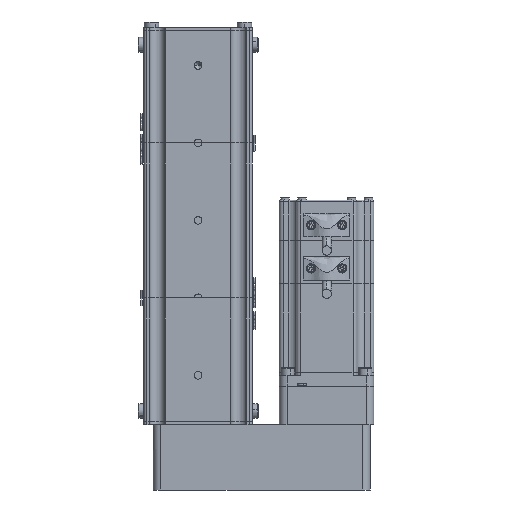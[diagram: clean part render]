
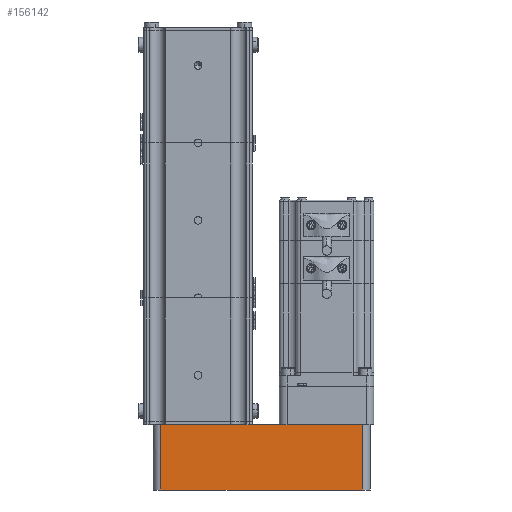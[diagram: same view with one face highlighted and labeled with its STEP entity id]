
A CAD part, front view. The second image highlights one B-rep face of the part: STEP entity #156142.
In plain terms, the highlighted planar face has unit normal (0, -1, 0).
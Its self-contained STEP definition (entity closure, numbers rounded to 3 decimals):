
#43898 = CARTESIAN_POINT ( 'NONE',  ( -21.92, -28.5, 3. ) ) ;
#43980 = CARTESIAN_POINT ( 'NONE',  ( -30.58, -28.5, 3. ) ) ;
#45271 = DIRECTION ( 'NONE',  ( 1., 0., 0. ) ) ;
#45273 = VECTOR ( 'NONE', #45271, 1000. ) ;
#45300 = LINE ( 'NONE', #45309, #45273 ) ;
#45309 = CARTESIAN_POINT ( 'NONE',  ( -111., -28.5, 3. ) ) ;
#45412 = CARTESIAN_POINT ( 'NONE',  ( 21.92, -28.5, 3. ) ) ;
#77147 = VECTOR ( 'NONE', #77173, 1000. ) ;
#77173 = DIRECTION ( 'NONE',  ( 1., 0., 0. ) ) ;
#77175 = CARTESIAN_POINT ( 'NONE',  ( -111., -28.5, 3. ) ) ;
#77177 = LINE ( 'NONE', #77175, #77147 ) ;
#77199 = CARTESIAN_POINT ( 'NONE',  ( -106., -28.5, 3. ) ) ;
#77877 = CARTESIAN_POINT ( 'NONE',  ( -111., -28.5, 3. ) ) ;
#77890 = CARTESIAN_POINT ( 'NONE',  ( 24., -28.5, 3. ) ) ;
#78099 = DIRECTION ( 'NONE',  ( 1., 0., 0. ) ) ;
#78103 = VECTOR ( 'NONE', #78099, 1000. ) ;
#78123 = LINE ( 'NONE', #77877, #78103 ) ;
#78157 = DIRECTION ( 'NONE',  ( 1., 0., 0. ) ) ;
#78158 = VECTOR ( 'NONE', #78157, 1000. ) ;
#78159 = CARTESIAN_POINT ( 'NONE',  ( -111., -28.5, 3. ) ) ;
#78162 = LINE ( 'NONE', #78159, #78158 ) ;
#78174 = DIRECTION ( 'NONE',  ( 0., 0., -1. ) ) ;
#78176 = VECTOR ( 'NONE', #78174, 1000. ) ;
#78179 = CARTESIAN_POINT ( 'NONE',  ( -106., -28.5, 45. ) ) ;
#78182 = LINE ( 'NONE', #78179, #78176 ) ;
#78196 = DIRECTION ( 'NONE',  ( 1., 0., 0. ) ) ;
#78197 = VECTOR ( 'NONE', #78196, 1000. ) ;
#78212 = CARTESIAN_POINT ( 'NONE',  ( -111., -28.5, 45. ) ) ;
#78216 = LINE ( 'NONE', #78212, #78197 ) ;
#79221 = CARTESIAN_POINT ( 'NONE',  ( -35., -28.5, 3. ) ) ;
#79342 = DIRECTION ( 'NONE',  ( 1., 0., 0. ) ) ;
#79364 = CARTESIAN_POINT ( 'NONE',  ( -111., -28.5, 3. ) ) ;
#79367 = LINE ( 'NONE', #79364, #79374 ) ;
#79374 = VECTOR ( 'NONE', #79342, 1000. ) ;
#79943 = PLANE ( 'NONE',  #80127 ) ;
#79944 = FACE_OUTER_BOUND ( 'NONE', #156212, .T. ) ;
#80103 = DIRECTION ( 'NONE',  ( 0., 0., 1. ) ) ;
#80106 = VECTOR ( 'NONE', #80103, 1000. ) ;
#80108 = CARTESIAN_POINT ( 'NONE',  ( 24., -28.5, 45. ) ) ;
#80121 = DIRECTION ( 'NONE',  ( -1., 0., 0. ) ) ;
#80122 = DIRECTION ( 'NONE',  ( 0., 1., 0. ) ) ;
#80125 = CARTESIAN_POINT ( 'NONE',  ( -111., -28.5, 45. ) ) ;
#80127 = AXIS2_PLACEMENT_3D ( 'NONE', #80125, #80122, #80121 ) ;
#80128 = LINE ( 'NONE', #80108, #80106 ) ;
#80147 = CARTESIAN_POINT ( 'NONE',  ( -106., -28.5, 45. ) ) ;
#80162 = CARTESIAN_POINT ( 'NONE',  ( 24., -28.5, 45. ) ) ;
#153975 = VERTEX_POINT ( 'NONE', #79221 ) ;
#153991 = EDGE_CURVE ( 'NONE', #154228, #154508, #79367, .T. ) ;
#154228 = VERTEX_POINT ( 'NONE', #43898 ) ;
#154242 = VERTEX_POINT ( 'NONE', #43980 ) ;
#154471 = EDGE_CURVE ( 'NONE', #153975, #154242, #45300, .T. ) ;
#154508 = VERTEX_POINT ( 'NONE', #45412 ) ;
#155805 = ORIENTED_EDGE ( 'NONE', *, *, #156143, .T. ) ;
#155813 = ORIENTED_EDGE ( 'NONE', *, *, #154471, .T. ) ;
#155818 = EDGE_CURVE ( 'NONE', #155823, #153975, #77177, .T. ) ;
#155823 = VERTEX_POINT ( 'NONE', #77199 ) ;
#155994 = VERTEX_POINT ( 'NONE', #77890 ) ;
#155997 = EDGE_CURVE ( 'NONE', #154508, #155994, #78123, .T. ) ;
#156021 = ORIENTED_EDGE ( 'NONE', *, *, #156023, .F. ) ;
#156023 = EDGE_CURVE ( 'NONE', #156194, #156196, #78216, .T. ) ;
#156024 = ORIENTED_EDGE ( 'NONE', *, *, #156031, .T. ) ;
#156025 = EDGE_CURVE ( 'NONE', #156194, #155823, #78182, .T. ) ;
#156031 = EDGE_CURVE ( 'NONE', #154242, #154228, #78162, .T. ) ;
#156113 = ORIENTED_EDGE ( 'NONE', *, *, #156025, .T. ) ;
#156114 = ORIENTED_EDGE ( 'NONE', *, *, #153991, .T. ) ;
#156141 = ORIENTED_EDGE ( 'NONE', *, *, #155818, .T. ) ;
#156142 = ADVANCED_FACE ( 'NONE', ( #79944 ), #79943, .F. ) ;
#156143 = EDGE_CURVE ( 'NONE', #155994, #156196, #80128, .T. ) ;
#156144 = ORIENTED_EDGE ( 'NONE', *, *, #155997, .T. ) ;
#156194 = VERTEX_POINT ( 'NONE', #80147 ) ;
#156196 = VERTEX_POINT ( 'NONE', #80162 ) ;
#156212 = EDGE_LOOP ( 'NONE', ( #156144, #155805, #156021, #156113, #156141, #155813, #156024, #156114 ) ) ;
